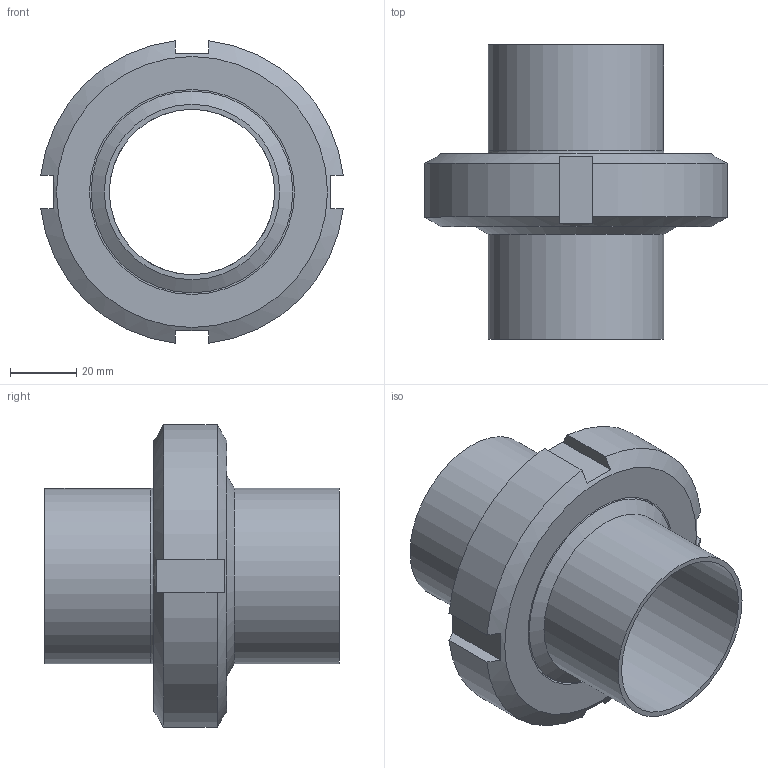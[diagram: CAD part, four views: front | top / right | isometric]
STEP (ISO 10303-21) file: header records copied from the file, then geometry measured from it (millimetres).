
FILE_DESCRIPTION(/* description */ ('Aseptik_Rohrverbindung_DIN 11864-1-A_53x1,50_L89'),/* implementation_level */ '2;1');
FILE_NAME(/* name */ 'L:\Normteile\N0024 - Rohrverbindungen\N0024_002 - DIN11864\N0024_002_001 - geschraubt\N0024_002_001\Step Marketing\DIN11864-1-A_53x1,50_L89.stp',/* time_stamp */ '2021-08-31T10:20:13+02:00',/* author */ ('Csasse'),/* organization */ ('Dockweiler AG'),/* preprocessor_version */ 'ST-DEVELOPER v18',/* originating_system */ 'Autodesk Inventor 2020',/* authorisation */ '');
FILE_SCHEMA (('AUTOMOTIVE_DESIGN { 1 0 10303 214 3 1 1 }'));
Length unit declared in the file: millimetre
Products named in the file (5): N0024_002_001_35; N0003_007_001_07; N0003_007_002_07; N0005_005_002_001_06; N0009_009_17
Assembly tree (4 placements, depth 2):
  N0024_002_001_35
    N0003_007_001_07
    N0003_007_002_07
    N0005_005_002_001_06
    N0009_009_17
Bounding box: 91.45 x 89 x 91.45 mm (x, y, z)
Volume: 113970.9 mm3; surface area: 61393.6 mm2
Topology: 4 solids, 4 shells, 60 faces, 176 edges, 128 vertices
Faces by surface type: plane 24, cylinder 14, torus 12, cone 10
Full cylindrical faces by diameter (mm): 50 x2, 53 x2, 61 x1, 62 x1, 66.9 x1, 67 x1, 73.767 x1, 78.423 x1
Entity records: 2344 total; most frequent: CARTESIAN_POINT 425, DIRECTION 402, ORIENTED_EDGE 352, AXIS2_PLACEMENT_3D 183, EDGE_CURVE 176, VERTEX_POINT 128, CIRCLE 114, EDGE_LOOP 72
